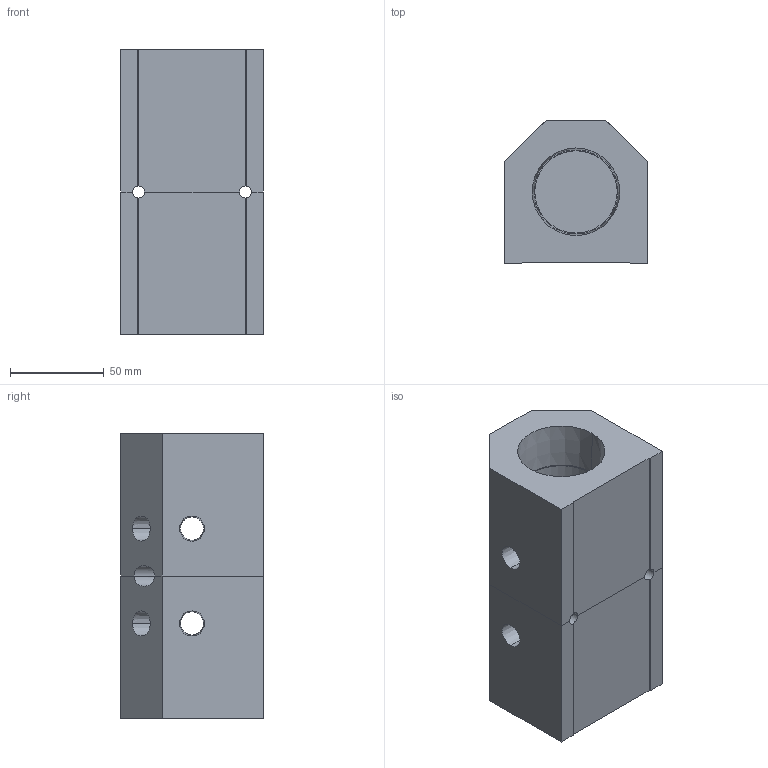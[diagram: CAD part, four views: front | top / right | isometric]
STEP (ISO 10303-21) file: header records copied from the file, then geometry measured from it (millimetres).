
FILE_DESCRIPTION (( 'STEP AP214' ), '1' );
FILE_NAME ('ALM2ABCDE-N4N24-152RB.step', '2022-02-07T07:51:55', ( '' ), ( '' ), 'SwSTEP 2.0', 'SolidWorks 2020', '' );
FILE_SCHEMA (( 'AUTOMOTIVE_DESIGN' ));
Length unit declared in the file: millimetre
Products named in the file (1): ALM2ABCDE-N4N24-152RB
Bounding box: 76.2 x 76.2 x 152 mm (x, y, z)
Volume: 541966 mm3; surface area: 89383.7 mm2
Topology: 2 solids, 2 shells, 366 faces, 974 edges, 646 vertices
Faces by surface type: plane 267, bspline 59, cone 24, cylinder 16
Entity records: 19481 total; most frequent: CARTESIAN_POINT 7328, ORIENTED_EDGE 1948, DIRECTION 1498, EDGE_CURVE 974, VECTOR 770, LINE 770, VERTEX_POINT 646, EDGE_LOOP 420
